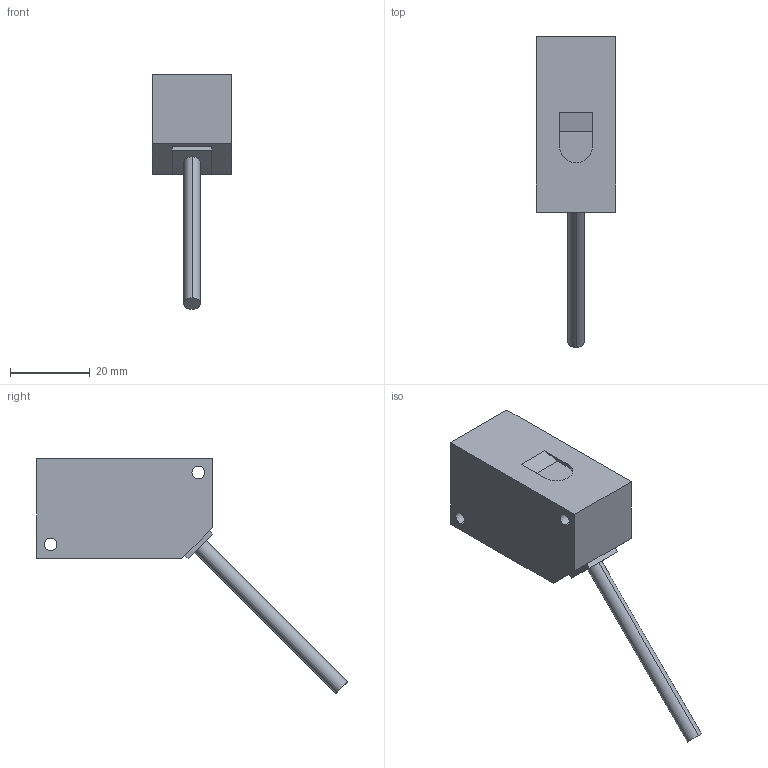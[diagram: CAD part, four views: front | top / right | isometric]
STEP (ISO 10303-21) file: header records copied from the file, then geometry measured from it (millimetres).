
FILE_DESCRIPTION (( 'STEP AP203' ), '1' );
FILE_NAME ('hg-f13a-a.STEP', '2022-10-13T00:53:19', ( '' ), ( '' ), 'SwSTEP 2.0', 'SolidWorks 2019', '' );
FILE_SCHEMA (( 'CONFIG_CONTROL_DESIGN' ));
Length unit declared in the file: millimetre
Products named in the file (1): hg-f13a-a
Bounding box: 20 x 77.83 x 58.83 mm (x, y, z)
Volume: 21767.9 mm3; surface area: 5909.3 mm2
Topology: 1 solids, 1 shells, 78 faces, 192 edges, 128 vertices
Faces by surface type: plane 62, cylinder 16
Entity records: 2373 total; most frequent: CARTESIAN_POINT 399, ORIENTED_EDGE 384, DIRECTION 382, EDGE_CURVE 192, LINE 160, VECTOR 160, VERTEX_POINT 128, AXIS2_PLACEMENT_3D 111
